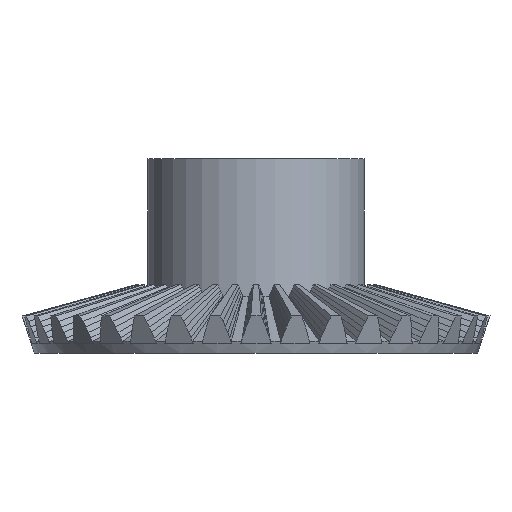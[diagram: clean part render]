
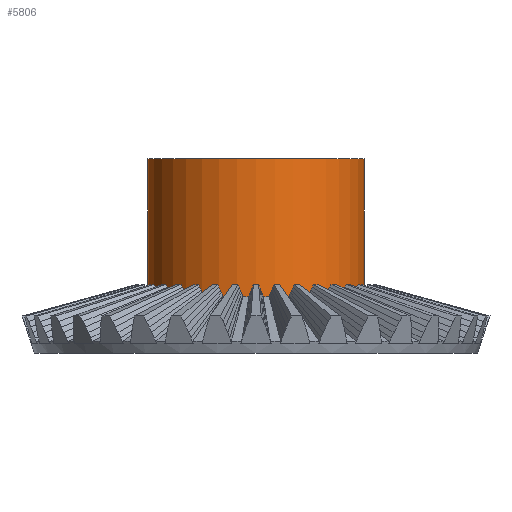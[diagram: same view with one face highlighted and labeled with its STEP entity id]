
A CAD part, front view. The second image highlights one B-rep face of the part: STEP entity #5806.
In plain terms, the highlighted cylindrical face has radius 11 mm (diameter 22 mm), a partial arc.
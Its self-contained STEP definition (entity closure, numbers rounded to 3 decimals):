
#87 = EDGE_CURVE ( 'NONE', #16196, #12099, #7964, .T. ) ;
#792 = AXIS2_PLACEMENT_3D ( 'NONE', #9567, #16891, #17091 ) ;
#2240 = DIRECTION ( 'NONE',  ( 1., 0., 0. ) ) ;
#2658 = CARTESIAN_POINT ( 'NONE',  ( 11., 0., 3.545 ) ) ;
#3552 = EDGE_LOOP ( 'NONE', ( #6292, #4462, #6391, #9053 ) ) ;
#4462 = ORIENTED_EDGE ( 'NONE', *, *, #16462, .F. ) ;
#5183 = DIRECTION ( 'NONE',  ( 1., 0., 0. ) ) ;
#5766 = VERTEX_POINT ( 'NONE', #15508 ) ;
#5806 = ADVANCED_FACE ( 'NONE', ( #13923 ), #15302, .T. ) ;
#6292 = ORIENTED_EDGE ( 'NONE', *, *, #10067, .F. ) ;
#6391 = ORIENTED_EDGE ( 'NONE', *, *, #19328, .T. ) ;
#6956 = AXIS2_PLACEMENT_3D ( 'NONE', #11296, #11106, #5183 ) ;
#7718 = VECTOR ( 'NONE', #14555, 1000. ) ;
#7964 = CIRCLE ( 'NONE', #10477, 11. ) ;
#8404 = DIRECTION ( 'NONE',  ( 0., 0., -1. ) ) ;
#8415 = VECTOR ( 'NONE', #8404, 1000. ) ;
#8506 = CARTESIAN_POINT ( 'NONE',  ( -11., 0., 18.545 ) ) ;
#9053 = ORIENTED_EDGE ( 'NONE', *, *, #87, .T. ) ;
#9567 = CARTESIAN_POINT ( 'NONE',  ( 0., 0., 18.545 ) ) ;
#9723 = VERTEX_POINT ( 'NONE', #12079 ) ;
#10067 = EDGE_CURVE ( 'NONE', #5766, #12099, #16132, .T. ) ;
#10477 = AXIS2_PLACEMENT_3D ( 'NONE', #14486, #19031, #2240 ) ;
#11106 = DIRECTION ( 'NONE',  ( 0., 0., 1. ) ) ;
#11296 = CARTESIAN_POINT ( 'NONE',  ( 0., 0., 18.545 ) ) ;
#12079 = CARTESIAN_POINT ( 'NONE',  ( -11., 0., 18.545 ) ) ;
#12099 = VERTEX_POINT ( 'NONE', #2658 ) ;
#12764 = CARTESIAN_POINT ( 'NONE',  ( 11., 0., 18.545 ) ) ;
#13923 = FACE_OUTER_BOUND ( 'NONE', #3552, .T. ) ;
#14486 = CARTESIAN_POINT ( 'NONE',  ( 0., 0., 3.545 ) ) ;
#14555 = DIRECTION ( 'NONE',  ( 0., 0., -1. ) ) ;
#15302 = CYLINDRICAL_SURFACE ( 'NONE', #792, 11. ) ;
#15508 = CARTESIAN_POINT ( 'NONE',  ( 11., 0., 18.545 ) ) ;
#15903 = CARTESIAN_POINT ( 'NONE',  ( -11., 0., 3.545 ) ) ;
#16132 = LINE ( 'NONE', #12764, #7718 ) ;
#16196 = VERTEX_POINT ( 'NONE', #15903 ) ;
#16462 = EDGE_CURVE ( 'NONE', #9723, #5766, #17993, .T. ) ;
#16891 = DIRECTION ( 'NONE',  ( 0., 0., -1. ) ) ;
#17091 = DIRECTION ( 'NONE',  ( -1., 0., 0. ) ) ;
#17993 = CIRCLE ( 'NONE', #6956, 11. ) ;
#18991 = LINE ( 'NONE', #8506, #8415 ) ;
#19031 = DIRECTION ( 'NONE',  ( 0., 0., 1. ) ) ;
#19328 = EDGE_CURVE ( 'NONE', #9723, #16196, #18991, .T. ) ;
